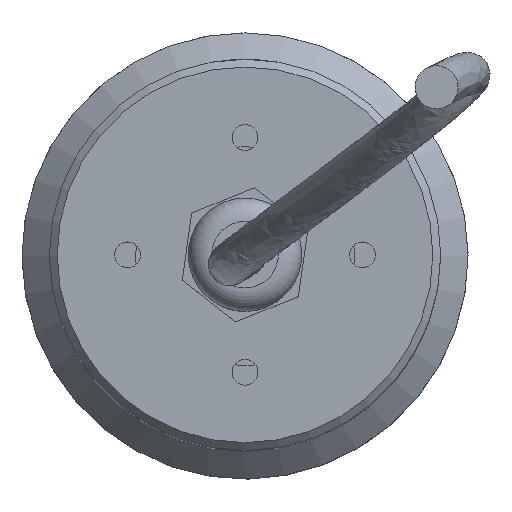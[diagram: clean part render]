
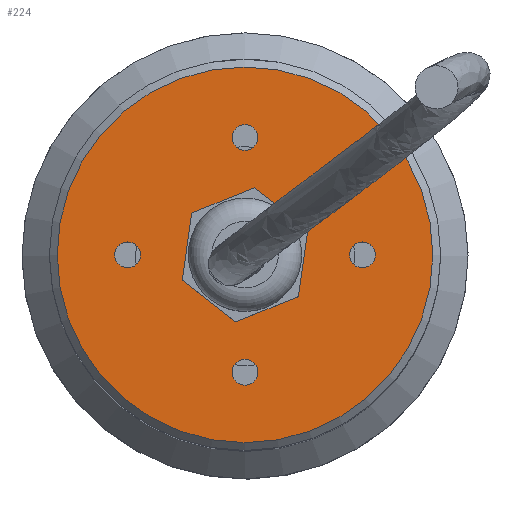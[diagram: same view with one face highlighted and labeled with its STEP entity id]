
A CAD part, top view. The second image highlights one B-rep face of the part: STEP entity #224.
In plain terms, the highlighted planar face has unit normal (0, 0, 1).
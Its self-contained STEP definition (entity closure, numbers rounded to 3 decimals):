
#61 = VERTEX_POINT ( 'NONE', #904 ) ;
#74 = DIRECTION ( 'NONE',  ( 0., 0., -1. ) ) ;
#82 = CARTESIAN_POINT ( 'NONE',  ( 6., 0., 0. ) ) ;
#93 = FACE_BOUND ( 'NONE', #1943, .T. ) ;
#100 = CARTESIAN_POINT ( 'NONE',  ( -16.65, 0., 0. ) ) ;
#114 = AXIS2_PLACEMENT_3D ( 'NONE', #1527, #1542, #1352 ) ;
#166 = EDGE_LOOP ( 'NONE', ( #933 ) ) ;
#172 = DIRECTION ( 'NONE',  ( 0., 0., 1. ) ) ;
#223 = CARTESIAN_POINT ( 'NONE',  ( -1.65, 15., 0. ) ) ;
#224 = ADVANCED_FACE ( 'NONE', ( #1586, #93, #1116, #804, #1891, #1254 ), #250, .F. ) ;
#229 = CARTESIAN_POINT ( 'NONE',  ( 13.35, 0., 0. ) ) ;
#230 = EDGE_LOOP ( 'NONE', ( #1070 ) ) ;
#239 = ORIENTED_EDGE ( 'NONE', *, *, #506, .F. ) ;
#250 = PLANE ( 'NONE',  #1619 ) ;
#387 = EDGE_CURVE ( 'NONE', #488, #488, #1457, .T. ) ;
#396 = CARTESIAN_POINT ( 'NONE',  ( 0., 15., 0. ) ) ;
#397 = VERTEX_POINT ( 'NONE', #100 ) ;
#488 = VERTEX_POINT ( 'NONE', #223 ) ;
#506 = EDGE_CURVE ( 'NONE', #1252, #1252, #689, .T. ) ;
#510 = DIRECTION ( 'NONE',  ( 0., 0., 1. ) ) ;
#533 = DIRECTION ( 'NONE',  ( -1., 0., 0. ) ) ;
#592 = CARTESIAN_POINT ( 'NONE',  ( 0., -15., 0. ) ) ;
#600 = CIRCLE ( 'NONE', #114, 6. ) ;
#626 = AXIS2_PLACEMENT_3D ( 'NONE', #592, #928, #1680 ) ;
#654 = CARTESIAN_POINT ( 'NONE',  ( -15., 0., 0. ) ) ;
#669 = EDGE_LOOP ( 'NONE', ( #239 ) ) ;
#681 = ORIENTED_EDGE ( 'NONE', *, *, #1859, .F. ) ;
#689 = CIRCLE ( 'NONE', #1590, 1.65 ) ;
#758 = DIRECTION ( 'NONE',  ( 1., 0., 0. ) ) ;
#788 = EDGE_LOOP ( 'NONE', ( #1739 ) ) ;
#804 = FACE_BOUND ( 'NONE', #788, .T. ) ;
#840 = CARTESIAN_POINT ( 'NONE',  ( 0., 0., 0. ) ) ;
#846 = AXIS2_PLACEMENT_3D ( 'NONE', #396, #1798, #533 ) ;
#849 = EDGE_CURVE ( 'NONE', #61, #61, #1427, .T. ) ;
#904 = CARTESIAN_POINT ( 'NONE',  ( -1.65, -15., 0. ) ) ;
#928 = DIRECTION ( 'NONE',  ( 0., 0., 1. ) ) ;
#933 = ORIENTED_EDGE ( 'NONE', *, *, #1338, .T. ) ;
#1070 = ORIENTED_EDGE ( 'NONE', *, *, #1365, .T. ) ;
#1083 = AXIS2_PLACEMENT_3D ( 'NONE', #654, #510, #1259 ) ;
#1116 = FACE_BOUND ( 'NONE', #1442, .T. ) ;
#1134 = VERTEX_POINT ( 'NONE', #1277 ) ;
#1151 = VERTEX_POINT ( 'NONE', #82 ) ;
#1252 = VERTEX_POINT ( 'NONE', #229 ) ;
#1254 = FACE_OUTER_BOUND ( 'NONE', #166, .T. ) ;
#1259 = DIRECTION ( 'NONE',  ( -1., 0., 0. ) ) ;
#1277 = CARTESIAN_POINT ( 'NONE',  ( 24., 0., 0. ) ) ;
#1294 = CARTESIAN_POINT ( 'NONE',  ( 15., 0., 0. ) ) ;
#1306 = ORIENTED_EDGE ( 'NONE', *, *, #387, .F. ) ;
#1338 = EDGE_CURVE ( 'NONE', #1134, #1134, #1694, .T. ) ;
#1352 = DIRECTION ( 'NONE',  ( 1., 0., 0. ) ) ;
#1365 = EDGE_CURVE ( 'NONE', #1151, #1151, #600, .T. ) ;
#1367 = CARTESIAN_POINT ( 'NONE',  ( 0., 0., 0. ) ) ;
#1427 = CIRCLE ( 'NONE', #626, 1.65 ) ;
#1442 = EDGE_LOOP ( 'NONE', ( #681 ) ) ;
#1452 = DIRECTION ( 'NONE',  ( 1., 0., 0. ) ) ;
#1457 = CIRCLE ( 'NONE', #846, 1.65 ) ;
#1482 = DIRECTION ( 'NONE',  ( 0., 0., 1. ) ) ;
#1527 = CARTESIAN_POINT ( 'NONE',  ( 0., 0., 0. ) ) ;
#1542 = DIRECTION ( 'NONE',  ( 0., 0., -1. ) ) ;
#1586 = FACE_BOUND ( 'NONE', #669, .T. ) ;
#1590 = AXIS2_PLACEMENT_3D ( 'NONE', #1294, #1482, #1613 ) ;
#1613 = DIRECTION ( 'NONE',  ( -1., 0., 0. ) ) ;
#1619 = AXIS2_PLACEMENT_3D ( 'NONE', #840, #74, #1452 ) ;
#1661 = AXIS2_PLACEMENT_3D ( 'NONE', #1367, #172, #758 ) ;
#1680 = DIRECTION ( 'NONE',  ( -1., 0., 0. ) ) ;
#1694 = CIRCLE ( 'NONE', #1661, 24. ) ;
#1739 = ORIENTED_EDGE ( 'NONE', *, *, #849, .F. ) ;
#1798 = DIRECTION ( 'NONE',  ( 0., 0., 1. ) ) ;
#1859 = EDGE_CURVE ( 'NONE', #397, #397, #1956, .T. ) ;
#1891 = FACE_BOUND ( 'NONE', #230, .T. ) ;
#1943 = EDGE_LOOP ( 'NONE', ( #1306 ) ) ;
#1956 = CIRCLE ( 'NONE', #1083, 1.65 ) ;
